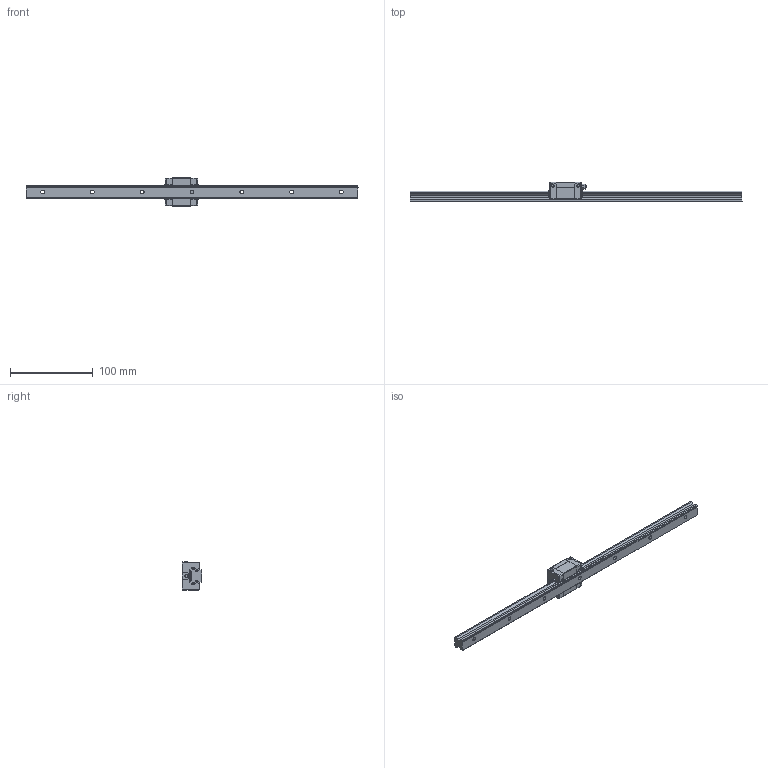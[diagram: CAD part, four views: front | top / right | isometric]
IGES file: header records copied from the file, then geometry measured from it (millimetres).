
Start section: SolidWorks IGES file using analytic representation for surfaces
Global section: file name: C:\Users\tsuch\OneDrive\デスクトップ\EG15関連修正(3D)\EGS15S.IGS; native system: SolidWorks 2019; preprocessor: SolidWorks 2019; author: tsuch; date: 210706.144047; units: millimetre
Bounding box: 400 x 24 x 34 mm (x, y, z)
Surface area: 36081.3 mm2 (no closed solid volume)
Topology: 0 solids, 0 shells, 472 faces, 4836 edges, 4830 vertices
Faces by surface type: bspline 315, revolution 157
